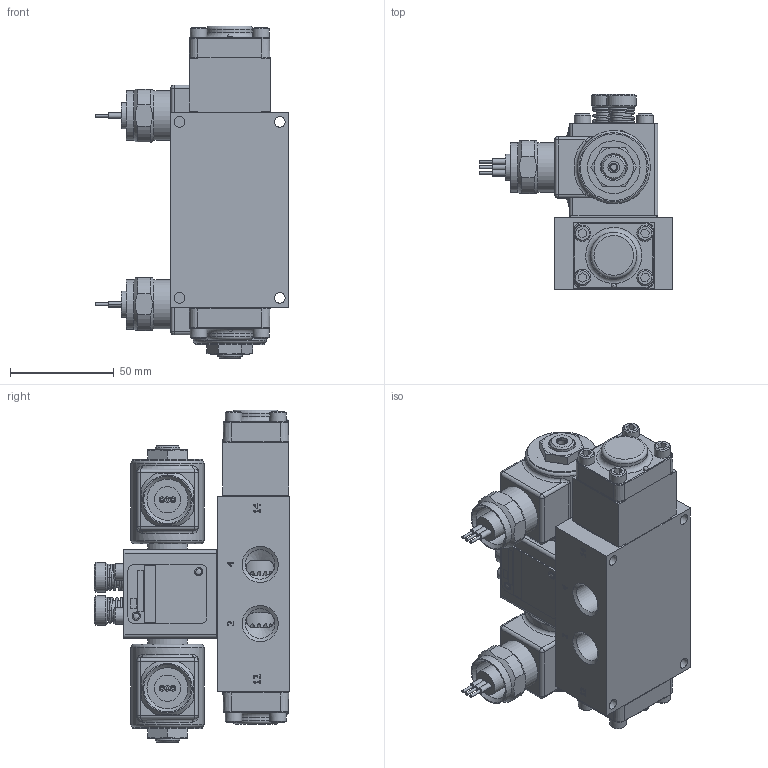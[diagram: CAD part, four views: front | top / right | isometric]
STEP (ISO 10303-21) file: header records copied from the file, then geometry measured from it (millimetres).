
FILE_DESCRIPTION(/* description */ (''),/* implementation_level */ '2;1');
FILE_NAME(/* name */ 'SS3MOPQ.stp',/* time_stamp */ '2025-02-16T09:48:06-05:00',/* author */ ('rmckenna'),/* organization */ (''),/* preprocessor_version */ 'ST-DEVELOPER v20',/* originating_system */ 'Autodesk Inventor 2024',/* authorisation */ '');
FILE_SCHEMA (('AUTOMOTIVE_DESIGN { 1 0 10303 214 3 1 1 }'));
Products named in the file (1): Part18
Bounding box: 93.56 x 94.34 x 160.22 mm (x, y, z)
Volume: 407557.7 mm3; surface area: 124924.9 mm2
Topology: 3 solids, 34 shells, 1878 faces, 4497 edges, 2853 vertices
Faces by surface type: plane 898, cylinder 385, cone 328, bspline 144, torus 111, sphere 12
Full cylindrical faces by diameter (mm): 1.346 x6, 2.07 x2, 2.261 x2, 2.718 x2, 2.769 x2, 2.778 x2, 3.048 x5, 3.175 x3, 3.302 x4, 3.683 x12, 3.912 x1, 3.962 x2, 4.366 x9, 4.826 x16, 4.978 x1, 5.156 x16, 5.159 x9, 5.537 x7, 5.944 x1, 6.629 x2, 7.938 x12, 7.95 x1, 9.144 x2, 9.474 x6, 9.525 x2, 9.922 x2, 11.303 x2, 11.43 x2, 11.836 x4, 12.598 x2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
Entity records: 64345 total; most frequent: CARTESIAN_POINT 19479, ORIENTED_EDGE 8936, DIRECTION 8597, EDGE_CURVE 4468, AXIS2_PLACEMENT_3D 3140, VERTEX_POINT 2853, LINE 2317, VECTOR 2317
